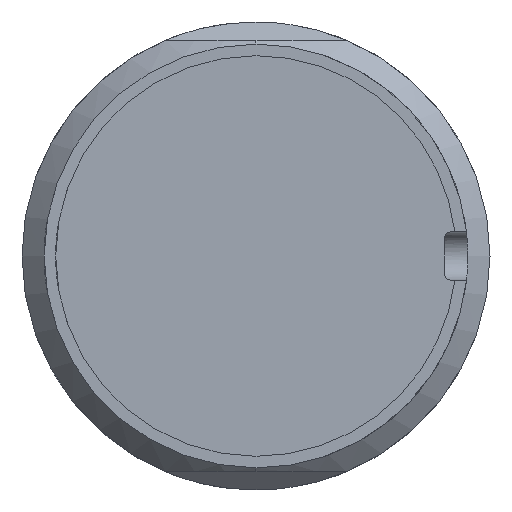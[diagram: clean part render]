
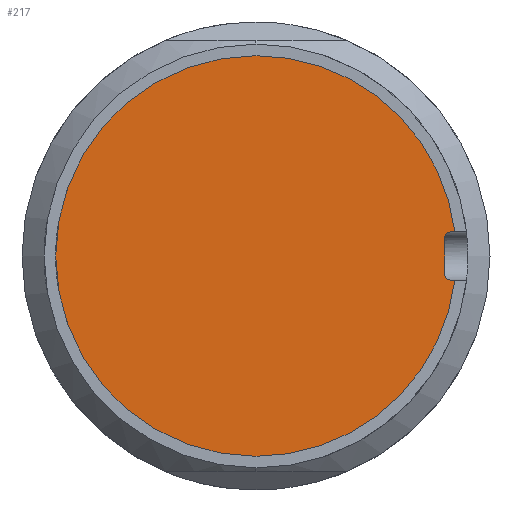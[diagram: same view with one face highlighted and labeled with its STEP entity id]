
A CAD part, left-side view. The second image highlights one B-rep face of the part: STEP entity #217.
In plain terms, the highlighted planar face has unit normal (-1, 0, 0).
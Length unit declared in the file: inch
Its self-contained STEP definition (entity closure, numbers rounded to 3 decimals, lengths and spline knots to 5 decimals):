
#185 = ORIENTED_EDGE ( 'NONE', *, *, #350, .F. ) ;
#186 = ORIENTED_EDGE ( 'NONE', *, *, #187, .F. ) ;
#187 = EDGE_CURVE ( 'NONE', #188, #269, #2761, .T. ) ;
#188 = VERTEX_POINT ( 'NONE', #2757 ) ;
#189 = ORIENTED_EDGE ( 'NONE', *, *, #190, .T. ) ;
#190 = EDGE_CURVE ( 'NONE', #188, #285, #2756, .T. ) ;
#217 = ADVANCED_FACE ( 'NONE', ( #2814 ), #2813, .F. ) ;
#218 = EDGE_LOOP ( 'NONE', ( #219, #286, #289, #291, #292, #185, #186, #189 ) ) ;
#219 = ORIENTED_EDGE ( 'NONE', *, *, #284, .F. ) ;
#220 = VERTEX_POINT ( 'NONE', #2808 ) ;
#235 = EDGE_CURVE ( 'NONE', #276, #236, #2657, .T. ) ;
#236 = VERTEX_POINT ( 'NONE', #2603 ) ;
#269 = VERTEX_POINT ( 'NONE', #2867 ) ;
#273 = VERTEX_POINT ( 'NONE', #2862 ) ;
#275 = EDGE_CURVE ( 'NONE', #273, #276, #2861, .T. ) ;
#276 = VERTEX_POINT ( 'NONE', #2856 ) ;
#284 = EDGE_CURVE ( 'NONE', #220, #285, #2900, .T. ) ;
#285 = VERTEX_POINT ( 'NONE', #2896 ) ;
#286 = ORIENTED_EDGE ( 'NONE', *, *, #287, .T. ) ;
#287 = EDGE_CURVE ( 'NONE', #220, #288, #2878, .T. ) ;
#288 = VERTEX_POINT ( 'NONE', #3033 ) ;
#289 = ORIENTED_EDGE ( 'NONE', *, *, #290, .T. ) ;
#290 = EDGE_CURVE ( 'NONE', #288, #236, #3032, .T. ) ;
#291 = ORIENTED_EDGE ( 'NONE', *, *, #235, .F. ) ;
#292 = ORIENTED_EDGE ( 'NONE', *, *, #275, .F. ) ;
#350 = EDGE_CURVE ( 'NONE', #269, #273, #2997, .T. ) ;
#2603 = CARTESIAN_POINT ( 'NONE',  ( -2.02, -0.51623, 0.0625 ) ) ;
#2604 = DIRECTION ( 'NONE',  ( 0., 0., -1. ) ) ;
#2605 = DIRECTION ( 'NONE',  ( 1., 0., 0. ) ) ;
#2651 = DIRECTION ( 'NONE',  ( 0., 0., -1. ) ) ;
#2652 = DIRECTION ( 'NONE',  ( 1., 0., 0. ) ) ;
#2653 = CARTESIAN_POINT ( 'NONE',  ( -2.02, -0.505, -0.0475 ) ) ;
#2654 = AXIS2_PLACEMENT_3D ( 'NONE', #2653, #2652, #2651 ) ;
#2655 = CARTESIAN_POINT ( 'NONE',  ( -2.02, 0., 0. ) ) ;
#2656 = AXIS2_PLACEMENT_3D ( 'NONE', #2655, #2605, #2604 ) ;
#2657 = CIRCLE ( 'NONE', #2656, 0.52 ) ;
#2756 = CIRCLE ( 'NONE', #2654, 0.015 ) ;
#2757 = CARTESIAN_POINT ( 'NONE',  ( -2.02, -0.505, -0.0625 ) ) ;
#2758 = DIRECTION ( 'NONE',  ( 0., -1., 0. ) ) ;
#2759 = VECTOR ( 'NONE', #2758, 39.37008 ) ;
#2760 = CARTESIAN_POINT ( 'NONE',  ( -2.02, -0.49, -0.0625 ) ) ;
#2761 = LINE ( 'NONE', #2760, #2759 ) ;
#2808 = CARTESIAN_POINT ( 'NONE',  ( -2.02, -0.49, 0.0475 ) ) ;
#2809 = DIRECTION ( 'NONE',  ( 0., 0., -1. ) ) ;
#2810 = DIRECTION ( 'NONE',  ( 1., 0., 0. ) ) ;
#2811 = CARTESIAN_POINT ( 'NONE',  ( -2.02, 0., 0. ) ) ;
#2812 = AXIS2_PLACEMENT_3D ( 'NONE', #2811, #2810, #2809 ) ;
#2813 = PLANE ( 'NONE',  #2812 ) ;
#2814 = FACE_OUTER_BOUND ( 'NONE', #218, .T. ) ;
#2856 = CARTESIAN_POINT ( 'NONE',  ( -2.02, 0., 0.52 ) ) ;
#2857 = DIRECTION ( 'NONE',  ( 0., 0., -1. ) ) ;
#2858 = DIRECTION ( 'NONE',  ( 1., 0., 0. ) ) ;
#2859 = CARTESIAN_POINT ( 'NONE',  ( -2.02, 0., 0. ) ) ;
#2860 = AXIS2_PLACEMENT_3D ( 'NONE', #2859, #2858, #2857 ) ;
#2861 = CIRCLE ( 'NONE', #2860, 0.52 ) ;
#2862 = CARTESIAN_POINT ( 'NONE',  ( -2.02, 0., -0.52 ) ) ;
#2867 = CARTESIAN_POINT ( 'NONE',  ( -2.02, -0.51623, -0.0625 ) ) ;
#2874 = DIRECTION ( 'NONE',  ( 0., 0., -1. ) ) ;
#2875 = DIRECTION ( 'NONE',  ( 1., 0., 0. ) ) ;
#2876 = CARTESIAN_POINT ( 'NONE',  ( -2.02, -0.505, 0.0475 ) ) ;
#2877 = AXIS2_PLACEMENT_3D ( 'NONE', #2876, #2875, #2874 ) ;
#2878 = CIRCLE ( 'NONE', #2877, 0.015 ) ;
#2896 = CARTESIAN_POINT ( 'NONE',  ( -2.02, -0.49, -0.0475 ) ) ;
#2897 = DIRECTION ( 'NONE',  ( 0., 0., -1. ) ) ;
#2898 = VECTOR ( 'NONE', #2897, 39.37008 ) ;
#2899 = CARTESIAN_POINT ( 'NONE',  ( -2.02, -0.49, 0.0625 ) ) ;
#2900 = LINE ( 'NONE', #2899, #2898 ) ;
#2993 = DIRECTION ( 'NONE',  ( 0., 0., -1. ) ) ;
#2994 = DIRECTION ( 'NONE',  ( 1., 0., 0. ) ) ;
#2995 = CARTESIAN_POINT ( 'NONE',  ( -2.02, 0., 0. ) ) ;
#2996 = AXIS2_PLACEMENT_3D ( 'NONE', #2995, #2994, #2993 ) ;
#2997 = CIRCLE ( 'NONE', #2996, 0.52 ) ;
#3029 = DIRECTION ( 'NONE',  ( 0., -1., 0. ) ) ;
#3030 = VECTOR ( 'NONE', #3029, 39.37008 ) ;
#3031 = CARTESIAN_POINT ( 'NONE',  ( -2.02, -0.49, 0.0625 ) ) ;
#3032 = LINE ( 'NONE', #3031, #3030 ) ;
#3033 = CARTESIAN_POINT ( 'NONE',  ( -2.02, -0.505, 0.0625 ) ) ;
